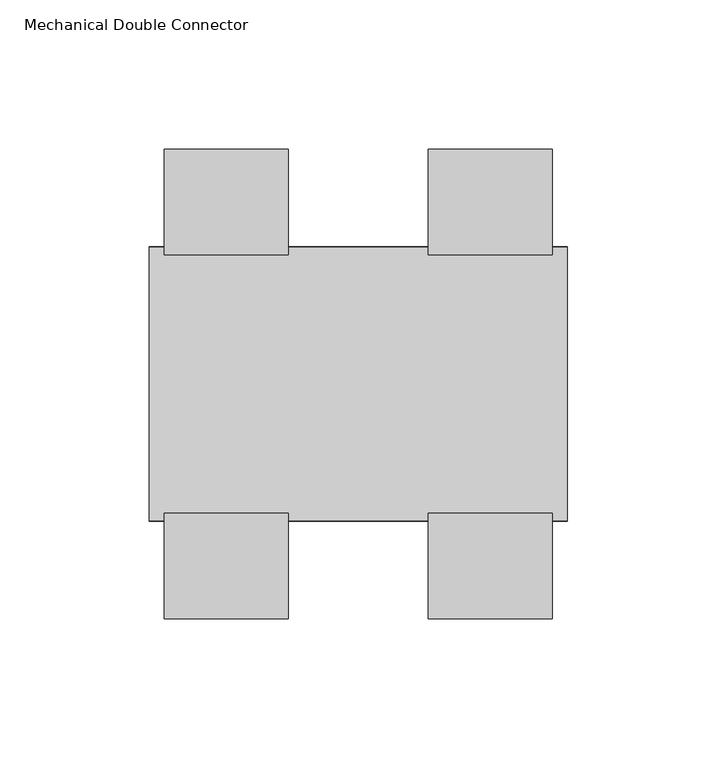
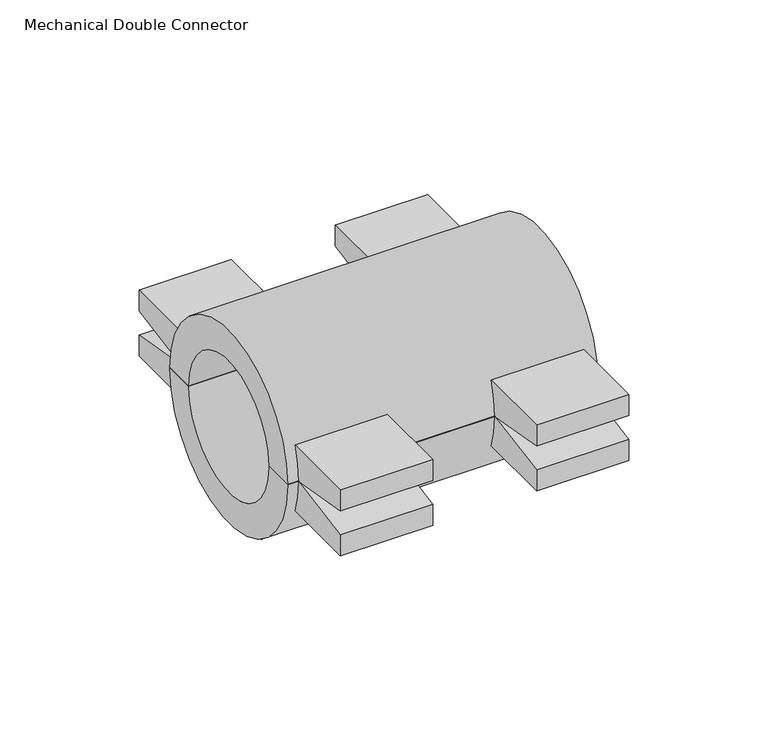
"""IFC4 building model written with IfcOpenShell, lengths in millimetres: pipe fitting geometry, Plumbing-Pipe-Fittings_Pexgol_Mechanical-Double-Connector : Mechanical Double Connector."""

from ifc_helpers import new_model, si_unit, point, frame, frame_2d, origin, place, context, project, spatial, polyline, circle_curve, trimmed, segment, composite_curve, outline, extrude, source, transform, mapped, element, save


def mechanical_double_connector_f0975d90(model_context):
    return source(origin(), model_context, "Body", "SweptSolid", [
        extrude(outline(composite_curve([segment(trimmed(circle_curve(frame_2d((0.0, -0.1120003)), 46.0), [point((43.2196425, -15.8620003))], [point((46.0, -0.1120003))], True, "CARTESIAN"), True, "CONTINUOUS"), segment(polyline([(46.0, -0.1120003), (78.6, -5.8602599), (78.6, -15.8620003), (43.2196425, -15.8620003)]), True, "CONTINUOUS")], self_intersect=False)), frame((23.4, 0.0, 0.0), z_axis=(1.0, 0.0, 0.0), x_axis=(0.0, 1.0, 0.0)), (0.0, 0.0, 1.0), 41.6),
        extrude(outline(composite_curve([segment(polyline([(-43.2196425, -15.8620003), (-78.6, -15.8620003), (-78.6, -5.8602599), (-46.0, -0.1120003)]), True, "CONTINUOUS"), segment(trimmed(circle_curve(frame_2d((0.0, -0.1120003)), 46.0), [point((-46.0, -0.1120003))], [point((-43.2196425, -15.8620003))], True, "CARTESIAN"), True, "CONTINUOUS")], self_intersect=False)), frame((23.4, 0.0, 0.0), z_axis=(1.0, 0.0, 0.0), x_axis=(0.0, 1.0, 0.0)), (0.0, 0.0, 1.0), 41.6),
        extrude(outline(composite_curve([segment(trimmed(circle_curve(frame_2d((0.0, -0.1120003)), 46.0), [point((43.2196425, -15.8620003))], [point((46.0, -0.1120003))], True, "CARTESIAN"), True, "CONTINUOUS"), segment(polyline([(46.0, -0.1120003), (78.6, -5.8602599), (78.6, -15.8620003), (43.2196425, -15.8620003)]), True, "CONTINUOUS")], self_intersect=False)), frame((-65.0, 0.0, 0.0), z_axis=(1.0, 0.0, 0.0), x_axis=(0.0, 1.0, 0.0)), (0.0, 0.0, 1.0), 41.6),
        extrude(outline(composite_curve([segment(polyline([(-43.2196425, -15.8620003), (-78.6, -15.8620003), (-78.6, -5.8602599), (-46.0, -0.1120003)]), True, "CONTINUOUS"), segment(trimmed(circle_curve(frame_2d((0.0, -0.1120003)), 46.0), [point((-46.0, -0.1120003))], [point((-43.2196425, -15.8620003))], True, "CARTESIAN"), True, "CONTINUOUS")], self_intersect=False)), frame((-65.0, 0.0, 0.0), z_axis=(1.0, 0.0, 0.0), x_axis=(0.0, 1.0, 0.0)), (0.0, 0.0, 1.0), 41.6),
        extrude(outline(composite_curve([segment(polyline([(43.2196425, 15.6379997), (78.6, 15.6379997), (78.6, 5.6362592), (46.0, -0.1120003)]), True, "CONTINUOUS"), segment(trimmed(circle_curve(frame_2d((0.0, -0.1120003)), 46.0), [point((46.0, -0.1120003))], [point((43.2196425, 15.6379997))], True, "CARTESIAN"), True, "CONTINUOUS")], self_intersect=False)), frame((-65.0, 0.0, 0.0), z_axis=(1.0, 0.0, 0.0), x_axis=(0.0, 1.0, 0.0)), (0.0, 0.0, 1.0), 41.6),
        extrude(outline(composite_curve([segment(trimmed(circle_curve(frame_2d((0.0, -0.1120003)), 46.0), [point((-43.2196425, 15.6379997))], [point((-46.0, -0.1120003))], True, "CARTESIAN"), True, "CONTINUOUS"), segment(polyline([(-46.0, -0.1120003), (-78.6, 5.6362592), (-78.6, 15.6379997), (-43.2196425, 15.6379997)]), True, "CONTINUOUS")], self_intersect=False)), frame((-65.0, 0.0, 0.0), z_axis=(1.0, 0.0, 0.0), x_axis=(0.0, 1.0, 0.0)), (0.0, 0.0, 1.0), 41.6),
        extrude(outline(composite_curve([segment(polyline([(43.2196425, 15.6379997), (78.6, 15.6379997), (78.6, 5.6362592), (46.0, -0.1120003)]), True, "CONTINUOUS"), segment(trimmed(circle_curve(frame_2d((0.0, -0.1120003)), 46.0), [point((46.0, -0.1120003))], [point((43.2196425, 15.6379997))], True, "CARTESIAN"), True, "CONTINUOUS")], self_intersect=False)), frame((23.4, 0.0, 0.0), z_axis=(1.0, 0.0, 0.0), x_axis=(0.0, 1.0, 0.0)), (0.0, 0.0, 1.0), 41.6),
        extrude(outline(composite_curve([segment(trimmed(circle_curve(frame_2d((0.0, -0.1120003)), 46.0), [point((-43.2196425, 15.6379997))], [point((-46.0, -0.1120003))], True, "CARTESIAN"), True, "CONTINUOUS"), segment(polyline([(-46.0, -0.1120003), (-78.6, 5.6362592), (-78.6, 15.6379997), (-43.2196425, 15.6379997)]), True, "CONTINUOUS")], self_intersect=False)), frame((23.4, 0.0, 0.0), z_axis=(1.0, 0.0, 0.0), x_axis=(0.0, 1.0, 0.0)), (0.0, 0.0, 1.0), 41.6),
        extrude(outline(composite_curve([segment(polyline([(-46.0, -0.1120003), (-31.5, -0.1120003)]), True, "CONTINUOUS"), segment(trimmed(circle_curve(frame_2d((0.0, -0.1120003)), 31.5), [point((-31.5, -0.1120003))], [point((31.5, -0.1120003))], True, "CARTESIAN"), True, "CONTINUOUS"), segment(polyline([(31.5, -0.1120003), (46.0, -0.1120003)]), True, "CONTINUOUS"), segment(trimmed(circle_curve(frame_2d((0.0, -0.1120003)), 46.0), [point((46.0, -0.1120003))], [point((-46.0, -0.1120003))], False, "CARTESIAN"), True, "CONTINUOUS")], self_intersect=False)), frame((-70.0, 0.0, 0.0), z_axis=(1.0, 0.0, 0.0), x_axis=(0.0, 1.0, 0.0)), (0.0, 0.0, 1.0), 140.0),
        extrude(outline(composite_curve([segment(trimmed(circle_curve(frame_2d((0.0, -0.1120003)), 46.0), [point((-46.0, -0.1120003))], [point((46.0, -0.1120003))], False, "CARTESIAN"), True, "CONTINUOUS"), segment(polyline([(46.0, -0.1120003), (31.5, -0.1120003)]), True, "CONTINUOUS"), segment(trimmed(circle_curve(frame_2d((0.0, -0.1120003)), 31.5), [point((31.5, -0.1120003))], [point((-31.5, -0.1120003))], True, "CARTESIAN"), True, "CONTINUOUS"), segment(polyline([(-31.5, -0.1120003), (-46.0, -0.1120003)]), True, "CONTINUOUS")], self_intersect=False)), frame((-70.0, 0.0, 0.0), z_axis=(1.0, 0.0, 0.0), x_axis=(0.0, 1.0, 0.0)), (0.0, 0.0, 1.0), 140.0),
    ])


if __name__ == "__main__":
    model = new_model("IFC4")
    model_context = context("Model", 3, world=origin())
    ifc_project = project(units=[si_unit("LENGTHUNIT", "METRE", prefix="MILLI")], contexts=[model_context])
    site = spatial("IfcSite", under=ifc_project)
    building = spatial("IfcBuilding", under=site)
    placement = place(None, origin())
    mechanical_double_connector_shape = mechanical_double_connector_f0975d90(model_context)
    element("IfcPipeFitting", 1, ObjectType="Plumbing-Pipe-Fittings_Pexgol_Mechanical-Double-Connector : Mechanical Double Connector", at=placement, inside=building, context=model_context, shape_type="MappedRepresentation", body=[
        mapped(mechanical_double_connector_shape, transform((0.0, 0.0, 0.0), x_axis=(1.0, 0.0, 0.0), y_axis=(0.0, 1.0, 0.0), z_axis=(0.0, 0.0, 1.0))),
    ])
    save(model, "model.ifc")
